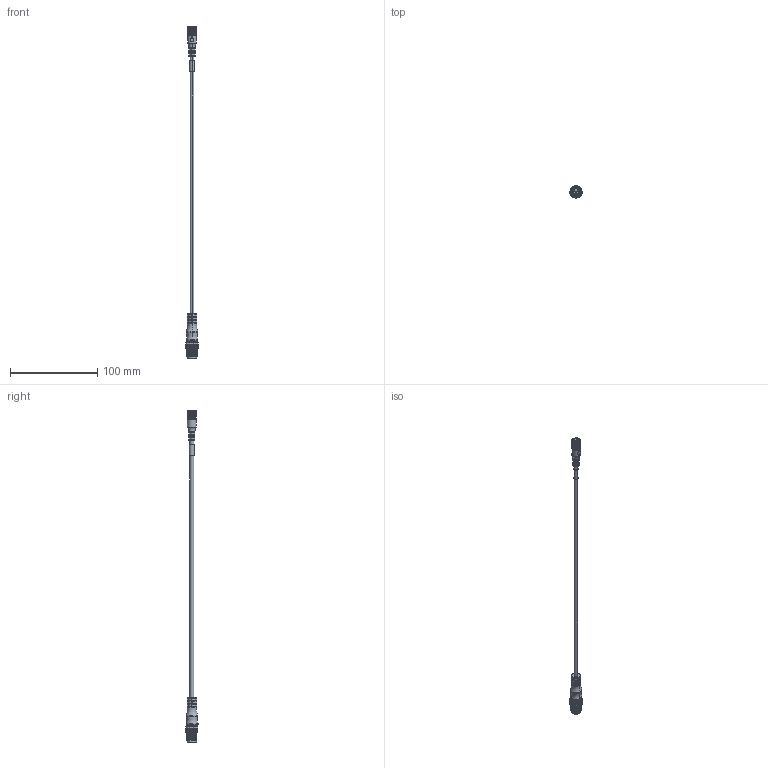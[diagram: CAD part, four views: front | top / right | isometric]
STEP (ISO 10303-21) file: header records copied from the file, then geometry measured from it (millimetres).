
FILE_DESCRIPTION((''),'2;1');
FILE_NAME('889P-F3BBD4M-2_ASM','2015-05-21T',('20066374'),('Rockwell Automation'),'PRO/ENGINEER BY PARAMETRIC TECHNOLOGY CORPORATION, 2009140','PRO/ENGINEER BY PARAMETRIC TECHNOLOGY CORPORATION, 2009140','');
FILE_SCHEMA(('CONFIG_CONTROL_DESIGN'));
Length unit declared in the file: inch
Products named in the file (3): STRAIGHT_FEMALE; 889D-M4AB-2; 889P-F3BBD4M-2_ASM
Assembly tree (2 placements, depth 2):
  889P-F3BBD4M-2_ASM
    STRAIGHT_FEMALE
    889D-M4AB-2
Bounding box: 14 x 14.23 x 381 mm (x, y, z)
Volume: 11877.9 mm3; surface area: 9350.8 mm2
Topology: 3 solids, 3 shells, 935 faces, 2329 edges, 1426 vertices
Faces by surface type: plane 430, cylinder 361, cone 100, torus 44
Entity records: 28578 total; most frequent: CARTESIAN_POINT 5983, DIRECTION 4936, ORIENTED_EDGE 4658, EDGE_CURVE 2329, AXIS2_PLACEMENT_3D 1899, VERTEX_POINT 1426, VECTOR 1138, LINE 1138
